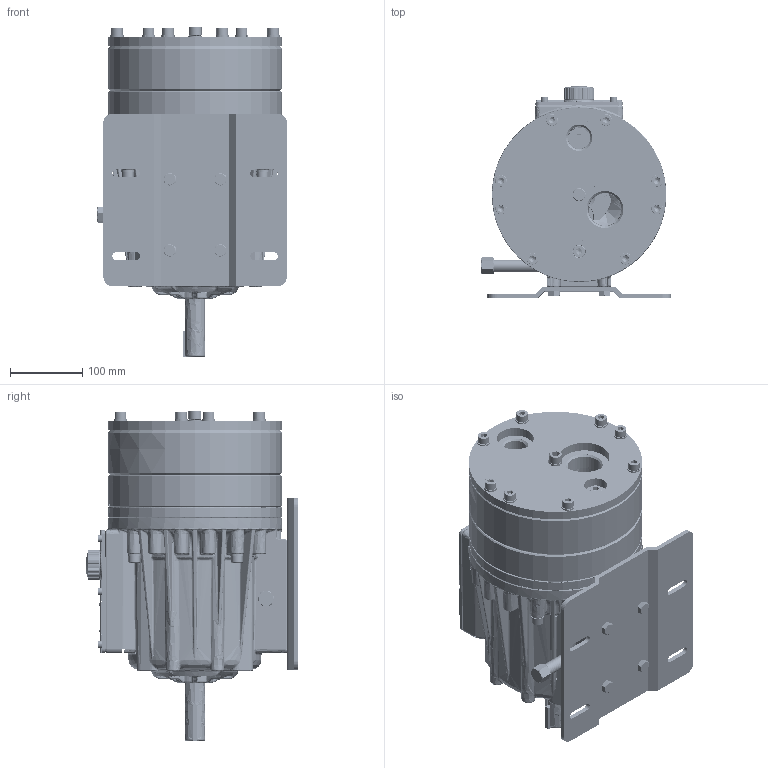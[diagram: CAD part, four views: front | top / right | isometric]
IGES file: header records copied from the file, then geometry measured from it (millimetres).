
Start section: SolidWorks IGES file using analytic representation for surfaces
Global section: file name: Q:\ENG\David Hughes\REQUESTED FROM CLIENTS\D25\G25-NON METALLIC.IGS; native system: SolidWorks 2018; preprocessor: SolidWorks 2018; author: dhughes; date: 220408.130840; units: inch
Bounding box: 262.01 x 293.87 x 456.27 mm (x, y, z)
Surface area: 1597327.8 mm2 (no closed solid volume)
Topology: 0 solids, 0 shells, 8604 faces, 107822 edges, 107724 vertices
Faces by surface type: revolution 4378, bspline 4226
